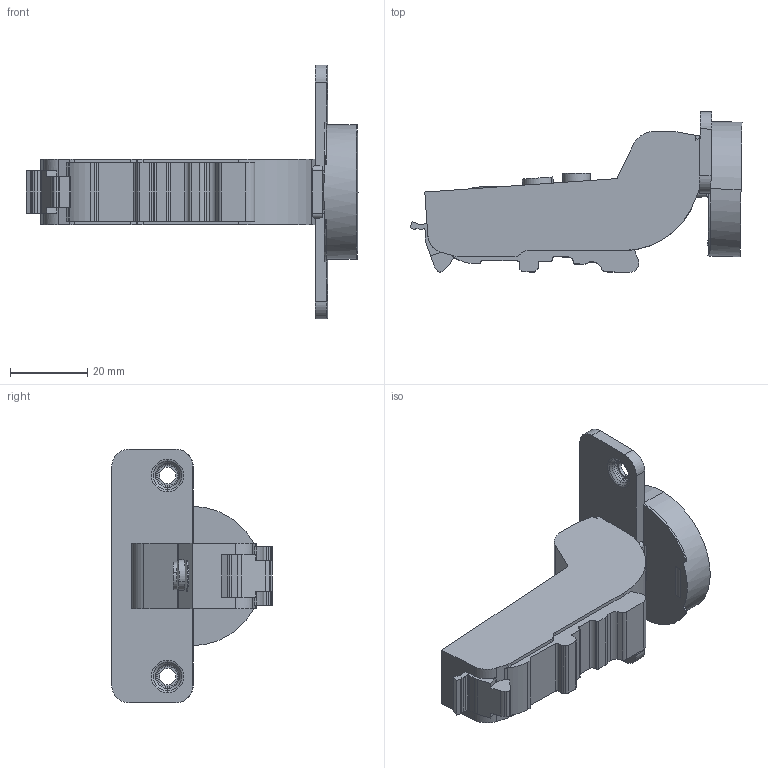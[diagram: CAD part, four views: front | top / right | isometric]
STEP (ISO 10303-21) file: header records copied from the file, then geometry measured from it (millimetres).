
FILE_DESCRIPTION (( 'STEP AP203' ), '1' );
FILE_NAME ('C81C8Q7FAB -DTC 3D close.STEP', '2024-11-30T00:29:37', ( '微软用户' ), ( '微软中国' ), 'SwSTEP 2.0', 'SolidWorks 2021', '' );
FILE_SCHEMA (( 'CONFIG_CONTROL_DESIGN' ));
Length unit declared in the file: millimetre
Products named in the file (1): C81C8Q7FAB -DTC 3D close
Bounding box: 85.88 x 41.49 x 65.6 mm (x, y, z)
Volume: 37886.3 mm3; surface area: 11313.6 mm2
Topology: 1 solids, 2 shells, 217 faces, 633 edges, 416 vertices
Faces by surface type: plane 124, cylinder 77, torus 12, cone 4
Entity records: 7304 total; most frequent: CARTESIAN_POINT 1343, ORIENTED_EDGE 1266, DIRECTION 1227, EDGE_CURVE 633, LINE 435, VECTOR 435, VERTEX_POINT 416, AXIS2_PLACEMENT_3D 396
